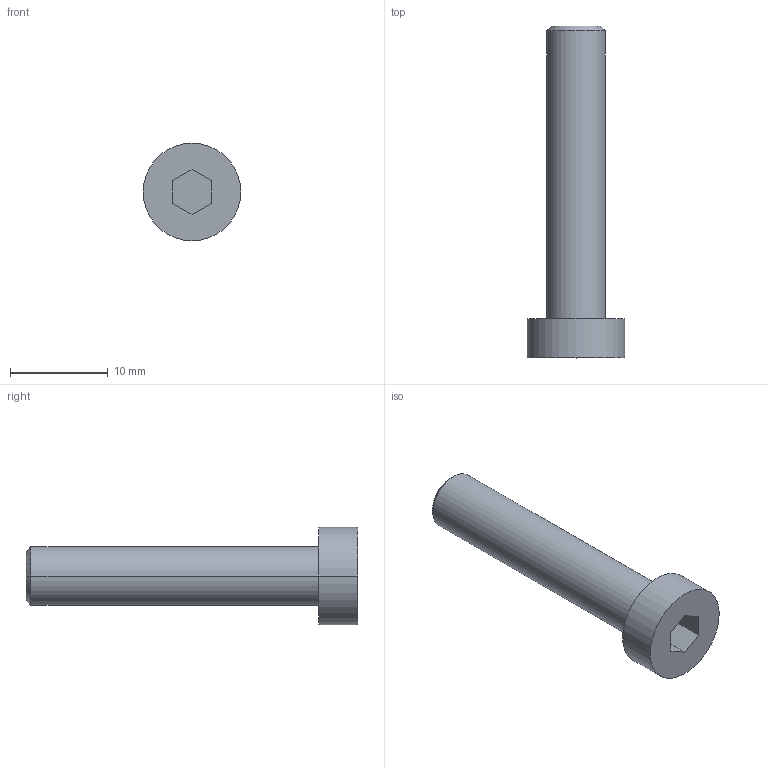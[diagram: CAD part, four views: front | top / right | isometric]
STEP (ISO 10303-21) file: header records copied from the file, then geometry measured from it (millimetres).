
FILE_DESCRIPTION((''),'2;1');
FILE_NAME('VTCEI0630','2002-12-27T',('Lipro doo'),('Lipro d.o.o.'),'PRO/ENGINEER BY PARAMETRIC TECHNOLOGY CORPORATION, 2001150','PRO/ENGINEER BY PARAMETRIC TECHNOLOGY CORPORATION, 2001150','');
FILE_SCHEMA(('CONFIG_CONTROL_DESIGN'));
Length unit declared in the file: millimetre
Products named in the file (1): VTCEI0630
Bounding box: 10 x 34 x 10 mm (x, y, z)
Volume: 1118.6 mm3; surface area: 1355.2 mm2
Topology: 1 solids, 2 shells, 18 faces, 40 edges, 26 vertices
Faces by surface type: plane 10, cylinder 6, cone 2
Entity records: 546 total; most frequent: DIRECTION 92, CARTESIAN_POINT 85, ORIENTED_EDGE 76, EDGE_CURVE 40, AXIS2_PLACEMENT_3D 33, VECTOR 26, LINE 26, VERTEX_POINT 26
